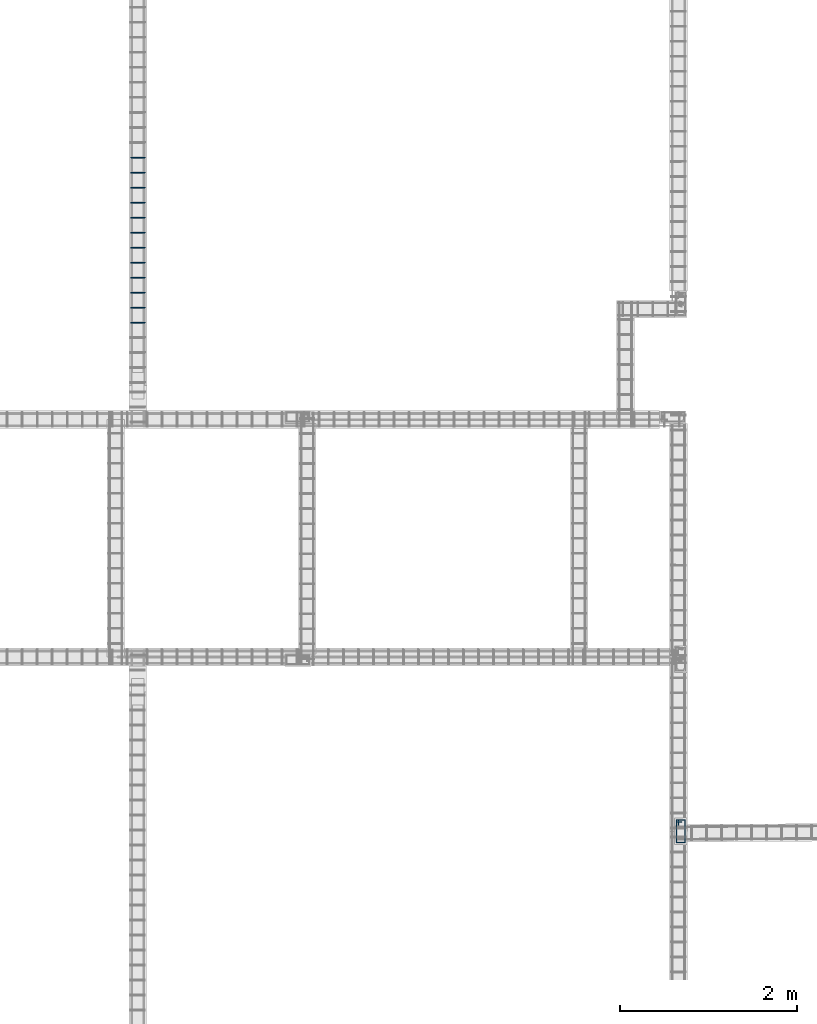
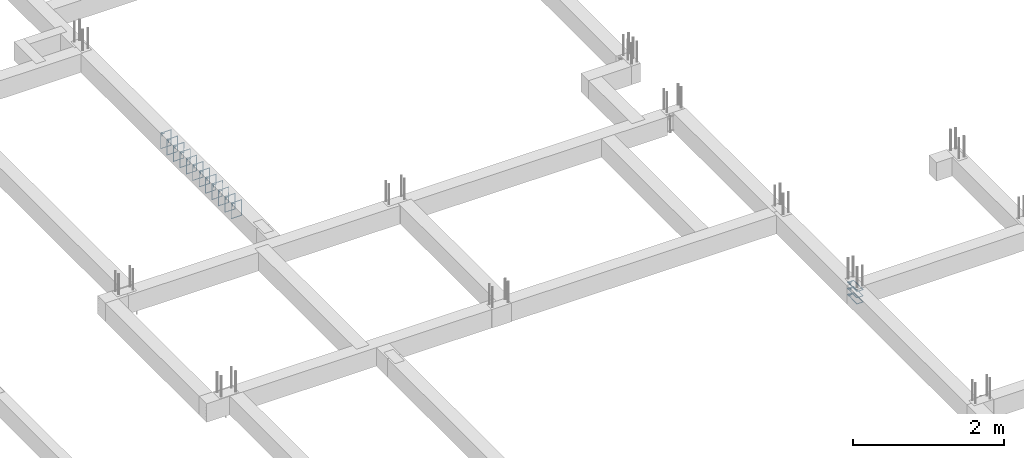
# One storey, part 32 of 150: 15 reinforcing bars.
"""IFC4 building model written with IfcOpenShell, lengths in centimetres."""

from ifc_helpers import new_model, entity, si_unit, derived_unit, frame, origin_with_axes, place, context, project, spatial, source, transform, mapped, element, save


model = new_model("IFC4")

# Units and contexts
model_context = context("Model", 3, precision=1e-05, world=origin_with_axes(), identifier="Body")
ifc_project = project(units=[si_unit("LENGTHUNIT", "METRE", prefix="CENTI"), si_unit("VOLUMEUNIT", "CUBIC_METRE"), si_unit("AREAUNIT", "SQUARE_METRE"), si_unit("POWERUNIT", "WATT"), si_unit("LUMINOUSFLUXUNIT", "LUMEN"), si_unit("ELECTRICCURRENTUNIT", "AMPERE"), si_unit("PRESSUREUNIT", "PASCAL", prefix="KILO"), si_unit("MASSUNIT", "GRAM", prefix="KILO"), si_unit("PLANEANGLEUNIT", "RADIAN"), derived_unit("VOLUMETRICFLOWRATEUNIT", [(si_unit("LENGTHUNIT", "METRE"), 3), (si_unit("TIMEUNIT", "SECOND"), -1)])], contexts=[model_context])

# Site, building, storey
site_placement = place(None, frame((-4000.0, 0.0, 0.0), z_axis=(0.0, 0.0, 1.0), x_axis=(1.0, 0.0, 0.0)))
site = spatial("IfcSite", under=ifc_project, at=site_placement, Name="PADRÃO")
building_placement = place(site_placement, frame((0.0, 0.0, -14.0)))
building = spatial("IfcBuilding", under=site, at=building_placement, Name="CRECHE PRÉ-ESCOLA TIPO 2")
placement = place(building_placement, origin_with_axes())
storey_placement = place(placement, frame((0.0, 0.0, 30.0), z_axis=(0.0, 0.0, 1.0), x_axis=(1.0, 0.0, 0.0)))
storey = spatial("IfcBuildingStorey", under=building, at=storey_placement, Name="VIGA BALDRAME", CompositionType="ELEMENT", Elevation=16.0)

# Reinforcing bars
shared_shape_1 = source(origin_with_axes(), model_context, "Body", "AdvancedSweptSolid", [
    entity("IfcSweptDiskSolid", entity("IfcCompositeCurve", [entity("IfcCompositeCurveSegment", "CONTINUOUS", True, entity("IfcPolyline", [entity("IfcCartesianPoint", [4.25, 21.75, 0.0]), entity("IfcCartesianPoint", [4.25, 27.75, 0.0])])), entity("IfcCompositeCurveSegment", "CONTINUOUS", True, entity("IfcPolyline", [entity("IfcCartesianPoint", [4.25, 27.75, 0.0]), entity("IfcCartesianPoint", [2.25, 27.75, 0.0])])), entity("IfcCompositeCurveSegment", "CONTINUOUS", True, entity("IfcPolyline", [entity("IfcCartesianPoint", [2.25, 27.75, 0.0]), entity("IfcCartesianPoint", [2.25, 2.25, 0.0])])), entity("IfcCompositeCurveSegment", "CONTINUOUS", True, entity("IfcPolyline", [entity("IfcCartesianPoint", [2.25, 2.25, 0.0]), entity("IfcCartesianPoint", [11.75, 2.25, 0.0])])), entity("IfcCompositeCurveSegment", "CONTINUOUS", True, entity("IfcPolyline", [entity("IfcCartesianPoint", [11.75, 2.25, 0.0]), entity("IfcCartesianPoint", [11.75, 27.75, -0.5])])), entity("IfcCompositeCurveSegment", "CONTINUOUS", True, entity("IfcPolyline", [entity("IfcCartesianPoint", [11.75, 27.75, -0.5]), entity("IfcCartesianPoint", [2.25, 27.75, -0.5])])), entity("IfcCompositeCurveSegment", "CONTINUOUS", True, entity("IfcPolyline", [entity("IfcCartesianPoint", [2.25, 27.75, -0.5]), entity("IfcCartesianPoint", [2.25, 25.75, -0.5])])), entity("IfcCompositeCurveSegment", "CONTINUOUS", True, entity("IfcPolyline", [entity("IfcCartesianPoint", [2.25, 25.75, -0.5]), entity("IfcCartesianPoint", [8.25, 25.75, -0.5])]))], False), 0.25),
])
for number, where, z_axis, x_axis, name in (
    (1, (1111.72, 818.5, -25.0), (0.0, 0.0, 1.0), (1.0, 0.0, 0.0), "P126 - Estribo"),
    (2, (1111.72, 818.5, -5.0), (0.0, 0.0, 1.0), (1.0, 0.0, 0.0), "P126 - Estribo"),
    (3, (1111.72, 818.5, -15.0), (0.0, 0.0, 1.0), (1.0, 0.0, 0.0), "P126 - Estribo"),
):
    element("IfcReinforcingBar", number, at=place(storey_placement, frame(where, z_axis=z_axis, x_axis=x_axis)), inside=storey, Name=name, BarLength=0.0, CrossSectionArea=1.9634954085e-05, NominalDiameter=0.5, PredefinedType="MAIN", context=model_context, shape_type="MappedRepresentation", body=[
        mapped(shared_shape_1, transform((0.0, 0.0, 0.0), scale=1.0)),
    ])
shared_shape_2 = source(origin_with_axes(), model_context, "Body", "AdvancedSweptSolid", [
    entity("IfcSweptDiskSolid", entity("IfcCompositeCurve", [entity("IfcCompositeCurveSegment", "CONTINUOUS", True, entity("IfcPolyline", [entity("IfcCartesianPoint", [2.0, -6.0, 0.0]), entity("IfcCartesianPoint", [2.0, 0.0, 0.0])])), entity("IfcCompositeCurveSegment", "CONTINUOUS", True, entity("IfcPolyline", [entity("IfcCartesianPoint", [2.0, 0.0, 0.0]), entity("IfcCartesianPoint", [0.0, 0.0, 0.0])])), entity("IfcCompositeCurveSegment", "CONTINUOUS", True, entity("IfcPolyline", [entity("IfcCartesianPoint", [0.0, 0.0, 0.0]), entity("IfcCartesianPoint", [0.0, -25.5, 0.0])])), entity("IfcCompositeCurveSegment", "CONTINUOUS", True, entity("IfcPolyline", [entity("IfcCartesianPoint", [0.0, -25.5, 0.0]), entity("IfcCartesianPoint", [15.5, -25.5, 0.0])])), entity("IfcCompositeCurveSegment", "CONTINUOUS", True, entity("IfcPolyline", [entity("IfcCartesianPoint", [15.5, -25.5, 0.0]), entity("IfcCartesianPoint", [15.5, 0.0, 0.5])])), entity("IfcCompositeCurveSegment", "CONTINUOUS", True, entity("IfcPolyline", [entity("IfcCartesianPoint", [15.5, 0.0, 0.5]), entity("IfcCartesianPoint", [0.0, 0.0, 0.5])])), entity("IfcCompositeCurveSegment", "CONTINUOUS", True, entity("IfcPolyline", [entity("IfcCartesianPoint", [0.0, 0.0, 0.5]), entity("IfcCartesianPoint", [0.0, -2.0, 0.5])])), entity("IfcCompositeCurveSegment", "CONTINUOUS", True, entity("IfcPolyline", [entity("IfcCartesianPoint", [0.0, -2.0, 0.5]), entity("IfcCartesianPoint", [6.0, -2.0, 0.5])]))], False), 0.25),
])
for number, where, z_axis, x_axis, name in (
    (4, (495.94, 1597.005, -2.25), (0.0, -1.0, 0.0), (1.0, 0.0, 0.0), "V171 - Estribo"),
    (5, (495.94, 1580.005, -2.25), (0.0, -1.0, 0.0), (1.0, 0.0, 0.0), "V171 - Estribo"),
    (6, (495.94, 1563.005, -2.25), (0.0, -1.0, 0.0), (1.0, 0.0, 0.0), "V171 - Estribo"),
    (7, (495.94, 1546.005, -2.25), (0.0, -1.0, 0.0), (1.0, 0.0, 0.0), "V171 - Estribo"),
    (8, (495.94, 1529.005, -2.25), (0.0, -1.0, 0.0), (1.0, 0.0, 0.0), "V171 - Estribo"),
    (9, (495.94, 1512.005, -2.25), (0.0, -1.0, 0.0), (1.0, 0.0, 0.0), "V171 - Estribo"),
    (10, (495.94, 1495.005, -2.25), (0.0, -1.0, 0.0), (1.0, 0.0, 0.0), "V171 - Estribo"),
    (11, (495.94, 1478.005, -2.25), (0.0, -1.0, 0.0), (1.0, 0.0, 0.0), "V171 - Estribo"),
    (12, (495.94, 1461.005, -2.25), (0.0, -1.0, 0.0), (1.0, 0.0, 0.0), "V171 - Estribo"),
    (13, (495.94, 1444.005, -2.25), (0.0, -1.0, 0.0), (1.0, 0.0, 0.0), "V171 - Estribo"),
    (14, (495.94, 1427.005, -2.25), (0.0, -1.0, 0.0), (1.0, 0.0, 0.0), "V171 - Estribo"),
    (15, (495.94, 1410.005, -2.25), (0.0, -1.0, 0.0), (1.0, 0.0, 0.0), "V171 - Estribo"),
):
    element("IfcReinforcingBar", number, at=place(storey_placement, frame(where, z_axis=z_axis, x_axis=x_axis)), inside=storey, Name=name, BarLength=0.0, CrossSectionArea=1.9634954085e-05, NominalDiameter=0.5, PredefinedType="MAIN", context=model_context, shape_type="MappedRepresentation", body=[
        mapped(shared_shape_2, transform((0.0, 0.0, 0.0), scale=1.0)),
    ])

save(model, "model.ifc")
